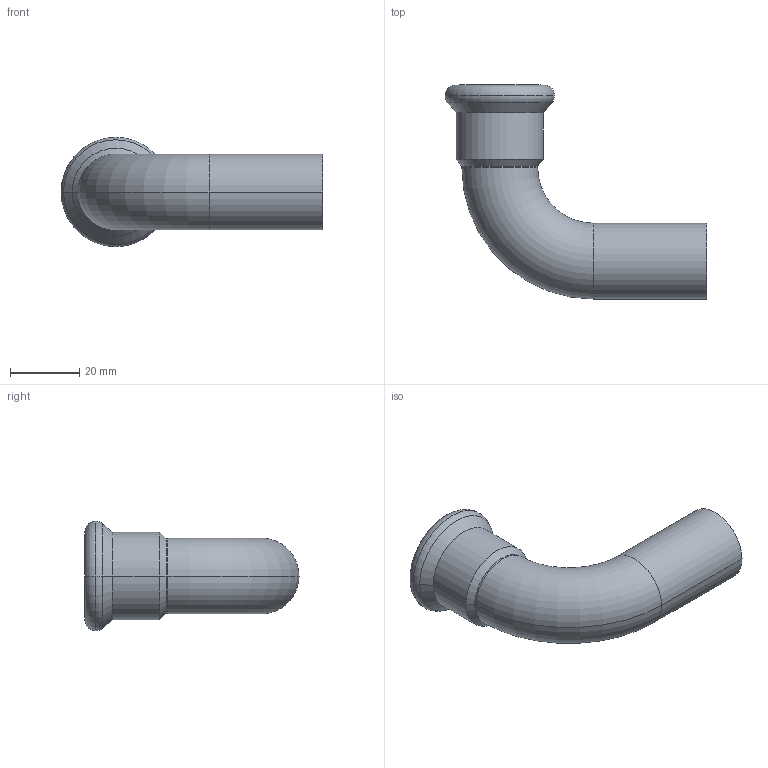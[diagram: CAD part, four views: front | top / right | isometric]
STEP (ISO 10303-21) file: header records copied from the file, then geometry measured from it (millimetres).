
FILE_DESCRIPTION(('OneSpaceDesigner STEP Export'),'2;1');
FILE_NAME('R2711 22x22.stp','2010-06-09T15:03:05',(''),(''),'OneSpace Designer STEP processor for AP214 (Solid Model)','OneSpace Modeling 15.00A 14-Mar-2007 (C) CoCreate Software GmbH','');
FILE_SCHEMA(('AUTOMOTIVE_DESIGN { 1 0 10303 214 1 1 1 1 }'));
Length unit declared in the file: millimetre
Products named in the file (2): R2711_22x22
Assembly tree (1 placements, depth 2):
  R2711_22x22
    R2711_22x22
Bounding box: 75.85 x 62 x 31.7 mm (x, y, z)
Volume: 10364.9 mm3; surface area: 14611.6 mm2
Topology: 1 solids, 1 shells, 66 faces, 163 edges, 104 vertices
Faces by surface type: plane 31, cylinder 23, torus 8, cone 4
Entity records: 1781 total; most frequent: ORIENTED_EDGE 326, CARTESIAN_POINT 286, DIRECTION 271, EDGE_CURVE 163, VERTEX_POINT 104, VECTOR 93, LINE 93, AXIS2_PLACEMENT_3D 89
